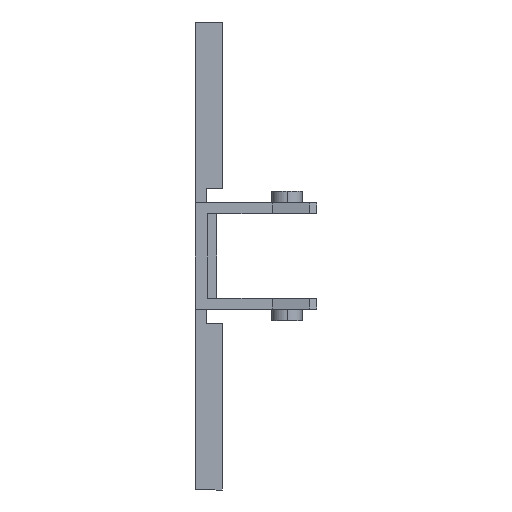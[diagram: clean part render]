
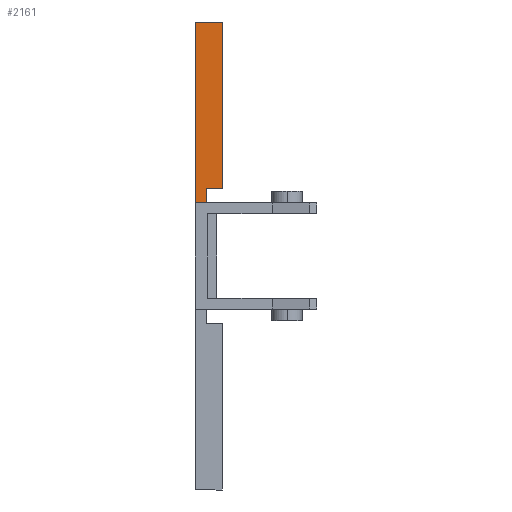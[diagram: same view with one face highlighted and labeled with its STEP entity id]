
A CAD part, front view. The second image highlights one B-rep face of the part: STEP entity #2161.
In plain terms, the highlighted planar face has unit normal (0, -1, 0).
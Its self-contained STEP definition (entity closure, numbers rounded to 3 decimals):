
#116 = VERTEX_POINT ( 'NONE', #298 ) ;
#117 = VERTEX_POINT ( 'NONE', #300 ) ;
#118 = VERTEX_POINT ( 'NONE', #301 ) ;
#119 = VERTEX_POINT ( 'NONE', #303 ) ;
#120 = VERTEX_POINT ( 'NONE', #305 ) ;
#123 = VERTEX_POINT ( 'NONE', #311 ) ;
#298 = CARTESIAN_POINT ( 'NONE',  ( 3., -9., 26. ) ) ;
#300 = CARTESIAN_POINT ( 'NONE',  ( 3., -9., 7.5 ) ) ;
#301 = CARTESIAN_POINT ( 'NONE',  ( 0., -9., 5.9 ) ) ;
#303 = CARTESIAN_POINT ( 'NONE',  ( 1.2, -9., 7.5 ) ) ;
#305 = CARTESIAN_POINT ( 'NONE',  ( 1.2, -9., 5.9 ) ) ;
#311 = CARTESIAN_POINT ( 'NONE',  ( 0., -9., 26. ) ) ;
#652 = VECTOR ( 'NONE', #1420, 1000. ) ;
#654 = LINE ( 'NONE', #1408, #867 ) ;
#660 = LINE ( 'NONE', #1419, #652 ) ;
#714 = ORIENTED_EDGE ( 'NONE', *, *, #2020, .F. ) ;
#778 = LINE ( 'NONE', #1220, #785 ) ;
#785 = VECTOR ( 'NONE', #1221, 1000. ) ;
#823 = LINE ( 'NONE', #1443, #2465 ) ;
#867 = VECTOR ( 'NONE', #1409, 1000. ) ;
#1019 = ORIENTED_EDGE ( 'NONE', *, *, #2137, .F. ) ;
#1029 = ORIENTED_EDGE ( 'NONE', *, *, #2011, .F. ) ;
#1044 = ORIENTED_EDGE ( 'NONE', *, *, #2007, .F. ) ;
#1137 = ORIENTED_EDGE ( 'NONE', *, *, #1873, .F. ) ;
#1138 = ORIENTED_EDGE ( 'NONE', *, *, #1999, .F. ) ;
#1220 = CARTESIAN_POINT ( 'NONE',  ( 1.2, -9., 7.5 ) ) ;
#1221 = DIRECTION ( 'NONE',  ( 0., 0., -1. ) ) ;
#1389 = DIRECTION ( 'NONE',  ( 0., 0., 1. ) ) ;
#1390 = CARTESIAN_POINT ( 'NONE',  ( 0., -9., 5. ) ) ;
#1400 = DIRECTION ( 'NONE',  ( -1., 0., 0. ) ) ;
#1408 = CARTESIAN_POINT ( 'NONE',  ( 0., -9., 26. ) ) ;
#1409 = DIRECTION ( 'NONE',  ( 1., 0., 0. ) ) ;
#1419 = CARTESIAN_POINT ( 'NONE',  ( 3., -9., 26. ) ) ;
#1420 = DIRECTION ( 'NONE',  ( 0., 0., -1. ) ) ;
#1443 = CARTESIAN_POINT ( 'NONE',  ( 3., -9., 7.5 ) ) ;
#1615 = DIRECTION ( 'NONE',  ( -1., 0., 0. ) ) ;
#1616 = CARTESIAN_POINT ( 'NONE',  ( 0., -9., 5.9 ) ) ;
#1661 = DIRECTION ( 'NONE',  ( 0., 0., 1. ) ) ;
#1663 = DIRECTION ( 'NONE',  ( 0., 1., 0. ) ) ;
#1764 = CARTESIAN_POINT ( 'NONE',  ( 0., -9., 5. ) ) ;
#1769 = PLANE ( 'NONE',  #1778 ) ;
#1778 = AXIS2_PLACEMENT_3D ( 'NONE', #1764, #1663, #1661 ) ;
#1873 = EDGE_CURVE ( 'NONE', #119, #120, #778, .T. ) ;
#1999 = EDGE_CURVE ( 'NONE', #116, #117, #660, .T. ) ;
#2007 = EDGE_CURVE ( 'NONE', #123, #116, #654, .T. ) ;
#2011 = EDGE_CURVE ( 'NONE', #117, #119, #823, .T. ) ;
#2020 = EDGE_CURVE ( 'NONE', #118, #123, #2390, .T. ) ;
#2137 = EDGE_CURVE ( 'NONE', #120, #118, #2380, .T. ) ;
#2161 = ADVANCED_FACE ( 'NONE', ( #2349 ), #1769, .F. ) ;
#2349 = FACE_OUTER_BOUND ( 'NONE', #2715, .T. ) ;
#2379 = VECTOR ( 'NONE', #1615, 1000. ) ;
#2380 = LINE ( 'NONE', #1616, #2379 ) ;
#2390 = LINE ( 'NONE', #1390, #2397 ) ;
#2397 = VECTOR ( 'NONE', #1389, 1000. ) ;
#2465 = VECTOR ( 'NONE', #1400, 1000. ) ;
#2715 = EDGE_LOOP ( 'NONE', ( #714, #1019, #1137, #1029, #1138, #1044 ) ) ;
